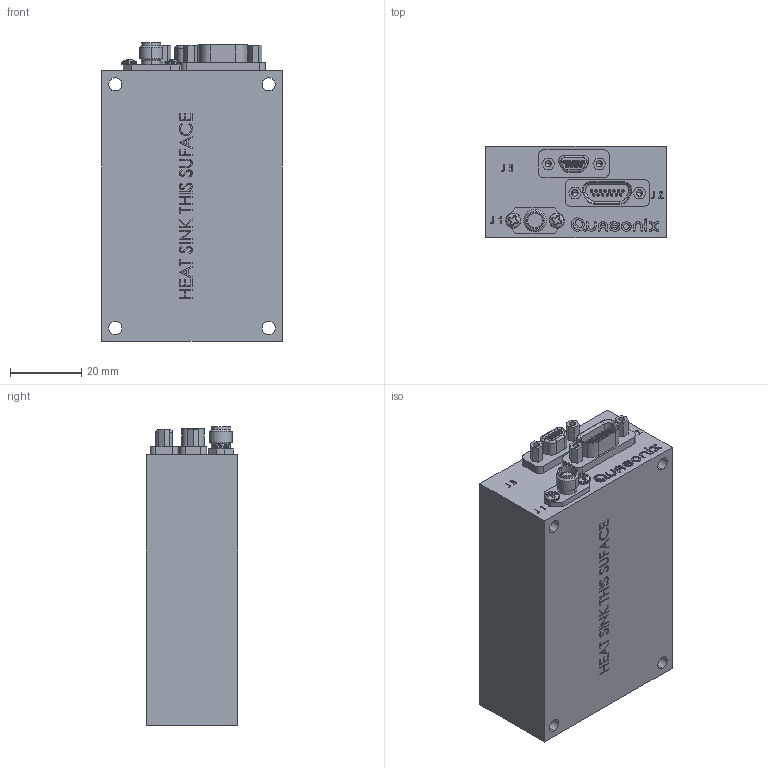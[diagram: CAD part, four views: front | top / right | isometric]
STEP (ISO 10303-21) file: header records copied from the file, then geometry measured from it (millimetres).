
FILE_DESCRIPTION (( 'STEP AP203' ), '1' );
FILE_NAME ('06AE.STEP', '2017-05-30T15:18:38', ( '' ), ( '' ), 'SwSTEP 2.0', 'SolidWorks 2016', '' );
FILE_SCHEMA (( 'CONFIG_CONTROL_DESIGN' ));
Length unit declared in the file: inch
Products named in the file (1): 06AE
Bounding box: 50.8 x 25.7 x 84.14 mm (x, y, z)
Volume: 99927.1 mm3; surface area: 18228 mm2
Topology: 19 solids, 19 shells, 822 faces, 2035 edges, 1340 vertices
Faces by surface type: plane 430, cylinder 176, bspline 170, cone 29, torus 13, sphere 4
Entity records: 29777 total; most frequent: CARTESIAN_POINT 10960, ORIENTED_EDGE 4054, DIRECTION 3428, EDGE_CURVE 2027, VERTEX_POINT 1340, VECTOR 1220, LINE 1220, AXIS2_PLACEMENT_3D 1104
